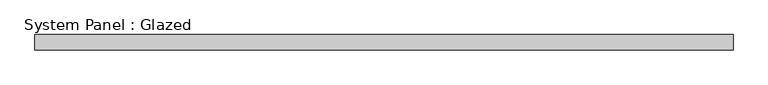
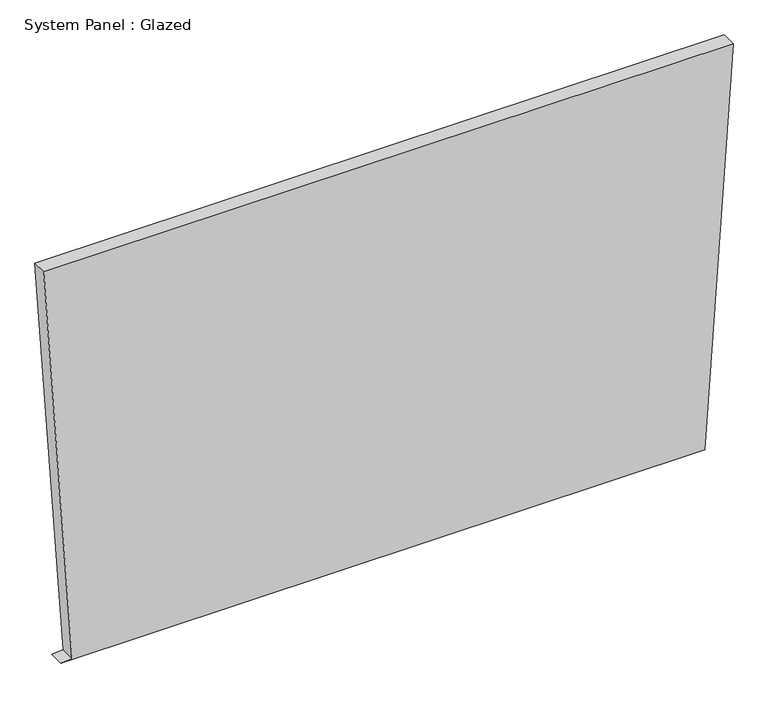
"""IFC4 building model written with IfcOpenShell, lengths in millimetres: plate geometry, System Panel : Glazed."""

import ifcopenshell
import ifcopenshell.guid

model = None  # the IFC model being written
_history = None  # IfcOwnerHistory: only IFC2X3 demands one
_inside = {}  # id of a spatial element -> (the spatial element, [elements in it])
_under = {}  # id of a project, library or spatial element -> (it, [spatial elements below it])
_declared = {}  # id of a project -> (the project, [libraries it declares])
_typed = {}  # id of a type object -> (the type object, [elements of that type])
_made_of = {}  # id of a material, layer set ... -> (it, [elements and type objects made of it])


def new_model(schema):
    """Start an empty IFC model of exactly this schema.

    Asked for "IFC4X3", IfcOpenShell would pick the latest addendum, in which some entities
    have other attributes; the version numbers below select the first issue.
    IFC2X3 requires an IfcOwnerHistory on every rooted entity: one is made here for all.
    """
    global model, _history
    if schema == "IFC4X3":
        model = ifcopenshell.file(schema_version=(4, 3, 0, 0))
    else:
        model = ifcopenshell.file(schema=schema)
    _inside.clear()
    _under.clear()
    _declared.clear()
    _typed.clear()
    _made_of.clear()
    _history = None
    if model.schema == "IFC2X3":
        org = make("IfcOrganization", Name="unknown")
        user = make(
            "IfcPersonAndOrganization",
            ThePerson=make("IfcPerson", FamilyName="unknown"),
            TheOrganization=org,
        )
        app = make(
            "IfcApplication",
            ApplicationDeveloper=org,
            Version="unknown",
            ApplicationFullName="unknown",
            ApplicationIdentifier="unknown",
        )
        _history = make(
            "IfcOwnerHistory",
            OwningUser=user,
            OwningApplication=app,
            ChangeAction="ADDED",
            CreationDate=0,
        )
    return model


def make(cls, **values):
    """One entity of the class cls with the attributes given. An attribute that is None is left unset."""
    return model.create_entity(
        cls, **{name: value for name, value in values.items() if value is not None}
    )


def rooted(cls, **values):
    """An entity with a GlobalId (a new one), such as an element, a storey or a relation."""
    return make(cls, GlobalId=ifcopenshell.guid.new(), OwnerHistory=_history, **values)


def si_unit(unit_type, name, prefix=None):
    """IfcSIUnit, for example si_unit("LENGTHUNIT", "METRE", prefix="MILLI")."""
    return make("IfcSIUnit", UnitType=unit_type, Prefix=prefix, Name=name)


def assignment(units):
    """IfcUnitAssignment: the units of a project."""
    return None if units is None else make("IfcUnitAssignment", Units=units)


def point(xyz):
    """IfcCartesianPoint."""
    return None if xyz is None else make("IfcCartesianPoint", Coordinates=xyz)


def direction(xyz):
    """IfcDirection."""
    return None if xyz is None else make("IfcDirection", DirectionRatios=xyz)


def frame(location, z_axis=None, x_axis=None):
    """IfcAxis2Placement3D, a coordinate frame: its origin and axes. An axis left out is left unset."""
    return make(
        "IfcAxis2Placement3D",
        Location=point(location),
        Axis=direction(z_axis),
        RefDirection=direction(x_axis),
    )


def origin():
    """The frame at (0, 0, 0) with its axes left unset."""
    return frame((0.0, 0.0, 0.0))


def place(relative_to, where):
    """IfcLocalPlacement: puts the frame where relative to a parent placement (None: the world)."""
    return make(
        "IfcLocalPlacement", PlacementRelTo=relative_to, RelativePlacement=where
    )


def context(
    kind, dimensions, precision=None, world=None, true_north=None, identifier=None
):
    """IfcGeometricRepresentationContext, for example the 3D "Model" context."""
    return make(
        "IfcGeometricRepresentationContext",
        ContextIdentifier=identifier,
        ContextType=kind,
        CoordinateSpaceDimension=dimensions,
        Precision=precision,
        WorldCoordinateSystem=world,
        TrueNorth=true_north,
    )


def project(units=None, contexts=None):
    """IfcProject with its units and contexts."""
    return rooted(
        "IfcProject",
        Name="project",
        RepresentationContexts=contexts,
        UnitsInContext=assignment(units),
    )


def spatial(cls, under=None, at=None, **own):
    """A site, building, storey or space (cls), placed at a placement, below another one or the project."""
    s = rooted(cls, ObjectPlacement=at, **own)
    if under is not None:
        _under.setdefault(under.id(), (under, []))[1].append(s)
    return s


def polyline(points):
    """IfcPolyline through the points."""
    return make("IfcPolyline", Points=[point(p) for p in points])


def outline(outer, holes=None, kind="AREA"):
    """IfcArbitraryClosedProfileDef: a profile drawn as a closed curve; with holes, ...WithVoids."""
    if holes is None:
        return make("IfcArbitraryClosedProfileDef", ProfileType=kind, OuterCurve=outer)
    return make(
        "IfcArbitraryProfileDefWithVoids",
        ProfileType=kind,
        OuterCurve=outer,
        InnerCurves=holes,
    )


def extrude(swept, where, along, depth):
    """IfcExtrudedAreaSolid: the profile swept, set in the frame where, extruded along a direction by depth."""
    return make(
        "IfcExtrudedAreaSolid",
        SweptArea=swept,
        Position=where,
        ExtrudedDirection=direction(along),
        Depth=depth,
    )


def shape(context_of_items, identifier, shape_type, items):
    """IfcShapeRepresentation: the items that make up one representation, for example the "Body"."""
    return make(
        "IfcShapeRepresentation",
        ContextOfItems=context_of_items,
        RepresentationIdentifier=identifier,
        RepresentationType=shape_type,
        Items=items,
    )


def source(mapping_origin, context_of_items, identifier, shape_type, items):
    """IfcRepresentationMap: a shape defined once, which mapped items show again and again."""
    return make(
        "IfcRepresentationMap",
        MappingOrigin=mapping_origin,
        MappedRepresentation=shape(context_of_items, identifier, shape_type, items),
    )


def transform(
    local_origin,
    x_axis=None,
    y_axis=None,
    z_axis=None,
    scale=None,
    scale2=None,
    scale3=None,
    uniform=True,
):
    """IfcCartesianTransformationOperator3D, or its non-uniform kind. x_axis, y_axis, z_axis: its Axis1, 2, 3."""
    if uniform:
        return make(
            "IfcCartesianTransformationOperator3D",
            Axis1=direction(x_axis),
            Axis2=direction(y_axis),
            LocalOrigin=point(local_origin),
            Scale=scale,
            Axis3=direction(z_axis),
        )
    return make(
        "IfcCartesianTransformationOperator3DnonUniform",
        Axis1=direction(x_axis),
        Axis2=direction(y_axis),
        LocalOrigin=point(local_origin),
        Scale=scale,
        Axis3=direction(z_axis),
        Scale2=scale2,
        Scale3=scale3,
    )


def mapped(mapping_source, mapping_target):
    """IfcMappedItem: shows the shape of a source again, moved by a transform."""
    return make(
        "IfcMappedItem", MappingSource=mapping_source, MappingTarget=mapping_target
    )


def made_of(thing, what):
    """Note that an element or type object is made of a material, layer set ...; save() writes the relation."""
    if what is not None:
        _made_of.setdefault(what.id(), (what, []))[1].append(thing)
    return thing


def element(
    cls,
    number,
    at=None,
    inside=None,
    cuts=None,
    type_object=None,
    material=None,
    context=None,
    identifier="Body",
    shape_type=None,
    held_by="IfcProductDefinitionShape",
    body=None,
    shapes=None,
    **own,
):
    """One element of the class cls, such as IfcWall. Its Tag is "e" and its number.

    at: its placement. inside: the storey or other place that contains it. cuts: it is an
    opening in that element (IfcRelVoidsElement). A single representation is given by context,
    identifier, shape_type and body (its items); several are given by shapes. held_by: the class
    of the entity that holds the representations. save() writes the other relations.
    """
    e = rooted(cls, Tag="e%d" % number, ObjectPlacement=at, **own)
    if body is not None:
        shapes = [shape(context, identifier, shape_type, body)]
    if shapes is not None:
        e.Representation = make(held_by, Representations=shapes)
    if inside is not None:
        _inside.setdefault(inside.id(), (inside, []))[1].append(e)
    if cuts is not None:
        rooted(
            "IfcRelVoidsElement", RelatingBuildingElement=cuts, RelatedOpeningElement=e
        )
    if type_object is not None:
        _typed.setdefault(type_object.id(), (type_object, []))[1].append(e)
    return made_of(e, material)


def aggregate(whole, parts):
    """IfcRelAggregates: a whole, such as a stair, and the parts it consists of."""
    return rooted("IfcRelAggregates", RelatingObject=whole, RelatedObjects=parts)


def save(model, path):
    """Write the relations noted so far, then the file.

    IfcRelAggregates (storeys below a building ...), IfcRelContainedInSpatialStructure (elements
    in a storey), IfcRelDefinesByType, IfcRelAssociatesMaterial and IfcRelDeclares: one each for
    every whole, place, type object, material and project.
    """
    for whole, parts in _under.values():
        aggregate(whole, parts)
    for where, things in _inside.values():
        rooted(
            "IfcRelContainedInSpatialStructure",
            RelatedElements=things,
            RelatingStructure=where,
        )
    for kind, things in _typed.values():
        rooted("IfcRelDefinesByType", RelatedObjects=things, RelatingType=kind)
    for what, things in _made_of.values():
        rooted("IfcRelAssociatesMaterial", RelatedObjects=things, RelatingMaterial=what)
    for by, libraries in _declared.values():
        rooted("IfcRelDeclares", RelatingContext=by, RelatedDefinitions=libraries)
    model.write(path)


def system_panel_glazed_52743ef8(model_context):
    return source(origin(), model_context, "Body", "SweptSolid", [
        extrude(outline(polyline([(0.0, -550.4133298), (0.0005205, 531.3202126), (704.2180055, 578.726111), (704.2174486, -578.726111), (1.2794955, -531.4063471), (0.0, -550.4133298)])), frame((0.0, 19.05, 0.0), z_axis=(0.0, 1.0, 0.0), x_axis=(0.0, 0.0, 1.0)), (0.0, 0.0, 1.0), 25.4),
    ])


if __name__ == "__main__":
    model = new_model("IFC4")
    model_context = context("Model", 3, world=origin())
    ifc_project = project(units=[si_unit("LENGTHUNIT", "METRE", prefix="MILLI")], contexts=[model_context])
    site = spatial("IfcSite", under=ifc_project)
    building = spatial("IfcBuilding", under=site)
    placement = place(None, origin())
    system_panel_glazed_shape = system_panel_glazed_52743ef8(model_context)
    element("IfcPlate", 1, ObjectType="System Panel : Glazed", at=placement, inside=building, context=model_context, shape_type="MappedRepresentation", body=[
        mapped(system_panel_glazed_shape, transform((0.0, 0.0, 0.0), x_axis=(1.0, 0.0, 0.0), y_axis=(0.0, 1.0, 0.0), z_axis=(0.0, 0.0, 1.0))),
    ])
    save(model, "model.ifc")
